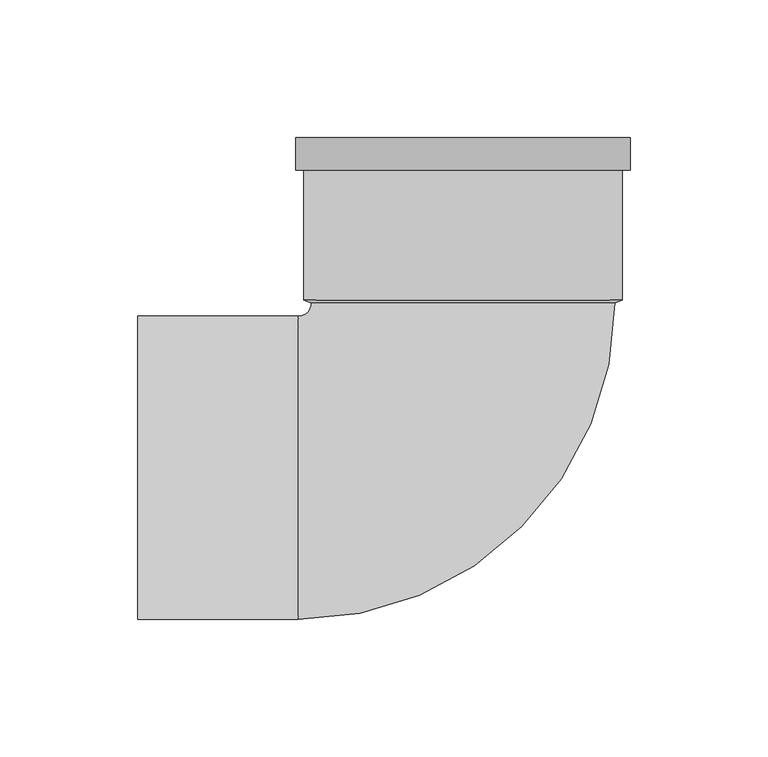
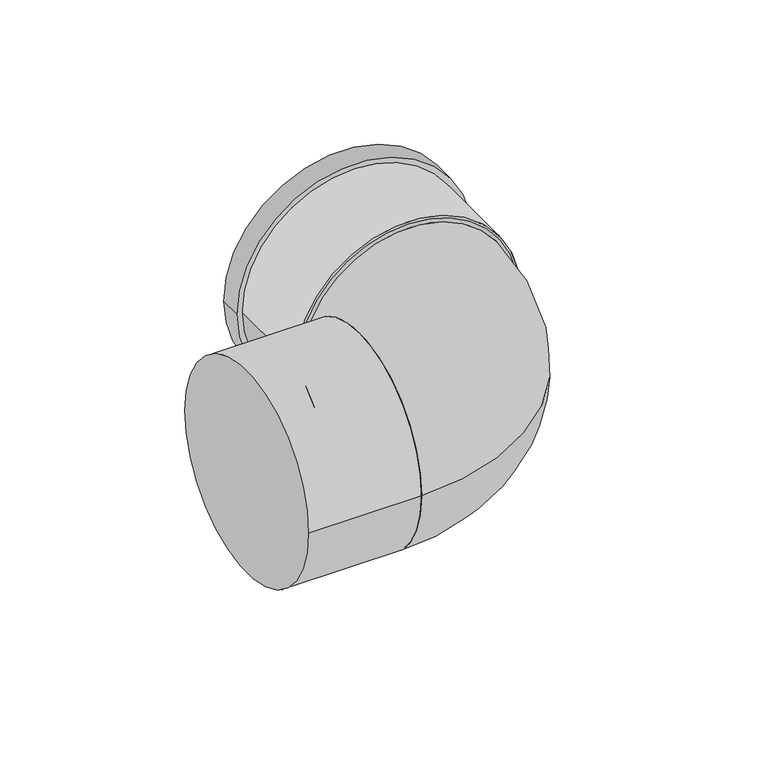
"""IFC4 building model written with IfcOpenShell, lengths in millimetres: pipe fitting geometry, Superdrain SKB Bend : Superdrain SKB Bend."""

from ifc_helpers import new_model, si_unit, point, frame, origin, origin_2d, place, context, project, spatial, polyline, circle_curve, ellipse_curve, trimmed, segment, composite_curve, outline, extrude, source, transform, mapped, element, save
from ifc_brep_helpers import plane_surface, revolved_surface, advanced_brep


def pipe_fitting_e52ff58d(model_context):
    return source(origin(), model_context, "Body", "SolidModel", [
        advanced_brep(
        [(55.0, 59.8, 0.0), (-55.0, 59.8, 0.0), (-59.8, -55.0, 0.0), (-59.8, 55.0, 0.0)],
        [
            (0, 1, circle_curve(frame((0.0, 59.8, 0.0), z_axis=(0.0, 1.0, 0.0), x_axis=(-1.0, 0.0, 0.0)), 55.0)),
            (1, 0, circle_curve(frame((0.0, 59.8, 0.0), z_axis=(0.0, 1.0, 0.0), x_axis=(-1.0, 0.0, 0.0)), 55.0)),
            (2, 3, circle_curve(frame((-59.8, 0.0, 0.0), z_axis=(-1.0, 0.0, 0.0), x_axis=(0.0, 1.0, 0.0)), 55.0)),
            (3, 2, circle_curve(frame((-59.8, 0.0, 0.0), z_axis=(-1.0, 0.0, 0.0), x_axis=(0.0, 1.0, 0.0)), 55.0)),
            (3, 1, circle_curve(frame((-59.8, 59.8, 0.0), z_axis=(0.0, 0.0, 1.0), x_axis=(1.0, 0.0, 0.0)), 4.8)),
            (0, 2, circle_curve(frame((-59.8, 59.8, 0.0), z_axis=(0.0, 0.0, -1.0), x_axis=(1.0, 0.0, 0.0)), 114.8)),
        ],
        [
            plane_surface(frame((0.0, 59.8, 0.0), z_axis=(0.0, 1.0, 0.0), x_axis=(0.0, 0.0, -1.0))),
            plane_surface(frame((-59.8, 0.0, 0.0), z_axis=(-1.0, 0.0, 0.0), x_axis=(0.0, 0.0, -1.0))),
            revolved_surface(trimmed(ellipse_curve(frame((0.0, 59.8, 0.0), z_axis=(0.0, -1.0, 0.0), x_axis=(-1.0, 0.0, 0.0)), 55.0, 55.0), [point((-55.0, 59.8, 0.0))], [point((55.0, 59.8, 0.0))], True, "CARTESIAN"), (-59.8, 59.8, 0.0), (0.0, 0.0, 1.0)),
            revolved_surface(trimmed(ellipse_curve(frame((0.0, 59.8, 0.0), z_axis=(0.0, -1.0, 0.0), x_axis=(-1.0, 0.0, 0.0)), 55.0, 55.0), [point((55.0, 59.8, 0.0))], [point((-55.0, 59.8, 0.0))], True, "CARTESIAN"), (-59.8, 59.8, 0.0), (0.0, 0.0, 1.0)),
        ],
        [
            (0, [[1, 2]]),
            (1, [[3, 4]]),
            (2, [[-4, 5, -1, 6]]),
            (3, [[-3, -6, -2, -5]]),
        ],
    ),
        extrude(outline(composite_curve([segment(trimmed(circle_curve(origin_2d(), 57.75), [point((0.0, 57.75))], [point((0.0, -57.75))], False, "CARTESIAN"), True, "CONTINUOUS"), segment(trimmed(circle_curve(origin_2d(), 57.75), [point((0.0, -57.75))], [point((0.0, 57.75))], False, "CARTESIAN"), True, "CONTINUOUS")], self_intersect=False), holes=[composite_curve([segment(trimmed(circle_curve(origin_2d(), 55.0), [point((0.0, 55.0))], [point((0.0, -55.0))], True, "CARTESIAN"), True, "CONTINUOUS"), segment(trimmed(circle_curve(origin_2d(), 55.0), [point((0.0, -55.0))], [point((0.0, 55.0))], True, "CARTESIAN"), True, "CONTINUOUS")], self_intersect=False)]), frame((0.0, 60.8, 0.0), z_axis=(0.0, 1.0, 0.0), x_axis=(0.0, 0.0, 1.0)), (0.0, 0.0, 1.0), 59.0),
        extrude(outline(composite_curve([segment(trimmed(circle_curve(origin_2d(), 60.6375), [point((0.0, -60.6375))], [point((0.0, 60.6375))], False, "CARTESIAN"), True, "CONTINUOUS"), segment(trimmed(circle_curve(origin_2d(), 60.6375), [point((0.0, 60.6375))], [point((0.0, -60.6375))], False, "CARTESIAN"), True, "CONTINUOUS")], self_intersect=False), holes=[composite_curve([segment(trimmed(circle_curve(origin_2d(), 55.0), [point((0.0, -55.0))], [point((0.0, 55.0))], True, "CARTESIAN"), True, "CONTINUOUS"), segment(trimmed(circle_curve(origin_2d(), 55.0), [point((0.0, 55.0))], [point((0.0, -55.0))], True, "CARTESIAN"), True, "CONTINUOUS")], self_intersect=False)]), frame((0.0, 108.0, 0.0), z_axis=(0.0, 1.0, 0.0), x_axis=(0.0, 0.0, 1.0)), (0.0, 0.0, 1.0), 11.8),
        advanced_brep(
        [(57.75, 60.8, 0.0), (-57.75, 60.8, 0.0), (55.0, 59.8, 0.0), (-55.0, 59.8, 0.0)],
        [
            (0, 1, circle_curve(frame((0.0, 60.8, 0.0), z_axis=(0.0, 1.0, 0.0), x_axis=(1.0, 0.0, 0.0)), 57.75)),
            (1, 0, circle_curve(frame((0.0, 60.8, 0.0), z_axis=(0.0, 1.0, 0.0), x_axis=(-1.0, 0.0, 0.0)), 57.75)),
            (2, 3, circle_curve(frame((0.0, 59.8, 0.0), z_axis=(0.0, -1.0, 0.0), x_axis=(-1.0, 0.0, 0.0)), 55.0)),
            (3, 2, circle_curve(frame((0.0, 59.8, 0.0), z_axis=(0.0, -1.0, 0.0), x_axis=(1.0, 0.0, 0.0)), 55.0)),
            (3, 1),
            (0, 2),
        ],
        [
            plane_surface(frame((0.0, 60.8, 0.0), z_axis=(0.0, 1.0, 0.0), x_axis=(0.0, 0.0, -1.0))),
            plane_surface(frame((0.0, 59.8, 0.0), z_axis=(0.0, -1.0, 0.0), x_axis=(0.0, 0.0, -1.0))),
            revolved_surface(polyline([(-55.0, 59.8, 0.0), (-57.75, 60.8, 0.0)]), (0.0, 39.8, 0.0), (0.0, 1.0, 0.0)),
            revolved_surface(polyline([(55.0, 59.8, 0.0), (57.75, 60.8, 0.0)]), (0.0, 39.8, 0.0), (0.0, 1.0, 0.0)),
        ],
        [
            (0, [[1, 2]]),
            (1, [[3, 4]]),
            (2, [[-4, 5, -1, 6]]),
            (3, [[-3, -6, -2, -5]]),
        ],
    ),
        extrude(outline(composite_curve([segment(trimmed(circle_curve(origin_2d(), 55.0), [point((-55.0, 0.0))], [point((55.0, 0.0))], False, "CARTESIAN"), True, "CONTINUOUS"), segment(trimmed(circle_curve(origin_2d(), 55.0), [point((55.0, 0.0))], [point((-55.0, 0.0))], False, "CARTESIAN"), True, "CONTINUOUS")], self_intersect=False)), frame((-118.0, 0.0, 0.0), z_axis=(1.0, 0.0, 0.0), x_axis=(0.0, 1.0, 0.0)), (0.0, 0.0, 1.0), 58.2),
    ])


if __name__ == "__main__":
    model = new_model("IFC4")
    model_context = context("Model", 3, world=origin())
    ifc_project = project(units=[si_unit("LENGTHUNIT", "METRE", prefix="MILLI")], contexts=[model_context])
    site = spatial("IfcSite", under=ifc_project)
    building = spatial("IfcBuilding", under=site)
    placement = place(None, origin())
    pipe_fitting_shape = pipe_fitting_e52ff58d(model_context)
    element("IfcPipeFitting", 1, ObjectType="Superdrain SKB Bend : Superdrain SKB Bend", at=placement, inside=building, context=model_context, shape_type="MappedRepresentation", body=[
        mapped(pipe_fitting_shape, transform((0.0, 0.0, 0.0), x_axis=(1.0, 0.0, 0.0), y_axis=(0.0, 1.0, 0.0), z_axis=(0.0, 0.0, 1.0))),
    ])
    save(model, "model.ifc")
